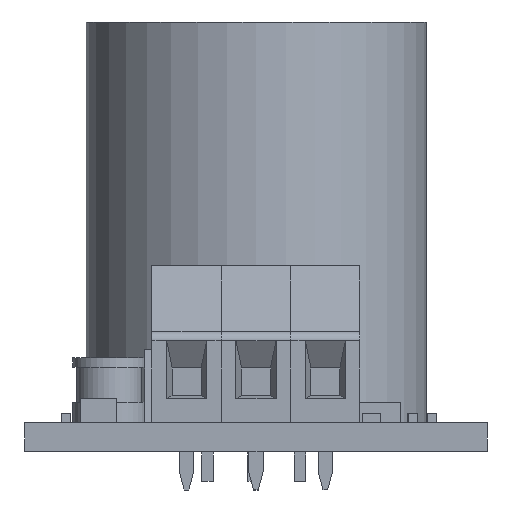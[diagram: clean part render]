
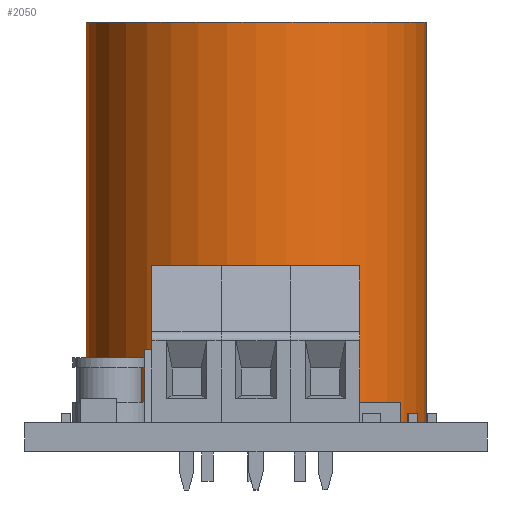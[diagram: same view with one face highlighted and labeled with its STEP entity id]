
A CAD part, left-side view. The second image highlights one B-rep face of the part: STEP entity #2050.
In plain terms, the highlighted cylindrical face has radius 9.35 mm (diameter 18.7 mm), a full revolution.
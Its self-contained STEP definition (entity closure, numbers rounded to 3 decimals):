
#2050 = ADVANCED_FACE('',(#2051),#2065,.T.);
#2051 = FACE_BOUND('',#2052,.T.);
#2052 = EDGE_LOOP('',(#2053,#2083,#2113,#2114));
#2053 = ORIENTED_EDGE('',*,*,#2054,.F.);
#2054 = EDGE_CURVE('',#2055,#2057,#2059,.T.);
#2055 = VERTEX_POINT('',#2056);
#2056 = CARTESIAN_POINT('',(9.35,0.,0.));
#2057 = VERTEX_POINT('',#2058);
#2058 = CARTESIAN_POINT('',(9.35,0.,22.));
#2059 = SEAM_CURVE('',#2060,(#2064,#2076),.PCURVE_S1.);
#2060 = LINE('',#2061,#2062);
#2061 = CARTESIAN_POINT('',(9.35,0.,0.));
#2062 = VECTOR('',#2063,1.);
#2063 = DIRECTION('',(0.,0.,1.));
#2064 = PCURVE('',#2065,#2070);
#2065 = CYLINDRICAL_SURFACE('',#2066,9.35);
#2066 = AXIS2_PLACEMENT_3D('',#2067,#2068,#2069);
#2067 = CARTESIAN_POINT('',(0.,0.,0.));
#2068 = DIRECTION('',(0.,0.,-1.));
#2069 = DIRECTION('',(1.,0.,0.));
#2070 = DEFINITIONAL_REPRESENTATION('',(#2071),#2075);
#2071 = LINE('',#2072,#2073);
#2072 = CARTESIAN_POINT('',(6.283,0.));
#2073 = VECTOR('',#2074,1.);
#2074 = DIRECTION('',(0.,-1.));
#2075 = ( GEOMETRIC_REPRESENTATION_CONTEXT(2) 
PARAMETRIC_REPRESENTATION_CONTEXT() REPRESENTATION_CONTEXT('2D SPACE',''
  ) );
#2076 = PCURVE('',#2065,#2077);
#2077 = DEFINITIONAL_REPRESENTATION('',(#2078),#2082);
#2078 = LINE('',#2079,#2080);
#2079 = CARTESIAN_POINT('',(0.,0.));
#2080 = VECTOR('',#2081,1.);
#2081 = DIRECTION('',(0.,-1.));
#2082 = ( GEOMETRIC_REPRESENTATION_CONTEXT(2) 
PARAMETRIC_REPRESENTATION_CONTEXT() REPRESENTATION_CONTEXT('2D SPACE',''
  ) );
#2083 = ORIENTED_EDGE('',*,*,#2084,.T.);
#2084 = EDGE_CURVE('',#2055,#2055,#2085,.T.);
#2085 = SURFACE_CURVE('',#2086,(#2091,#2097),.PCURVE_S1.);
#2086 = CIRCLE('',#2087,9.35);
#2087 = AXIS2_PLACEMENT_3D('',#2088,#2089,#2090);
#2088 = CARTESIAN_POINT('',(0.,0.,0.));
#2089 = DIRECTION('',(0.,0.,1.));
#2090 = DIRECTION('',(1.,0.,0.));
#2091 = PCURVE('',#2065,#2092);
#2092 = DEFINITIONAL_REPRESENTATION('',(#2093),#2096);
#2093 = B_SPLINE_CURVE_WITH_KNOTS('',1,(#2094,#2095),.UNSPECIFIED.,.F.,
  .F.,(2,2),(0.,6.283),.PIECEWISE_BEZIER_KNOTS.);
#2094 = CARTESIAN_POINT('',(6.283,0.));
#2095 = CARTESIAN_POINT('',(0.,0.));
#2096 = ( GEOMETRIC_REPRESENTATION_CONTEXT(2) 
PARAMETRIC_REPRESENTATION_CONTEXT() REPRESENTATION_CONTEXT('2D SPACE',''
  ) );
#2097 = PCURVE('',#2098,#2103);
#2098 = PLANE('',#2099);
#2099 = AXIS2_PLACEMENT_3D('',#2100,#2101,#2102);
#2100 = CARTESIAN_POINT('',(9.35,0.,0.));
#2101 = DIRECTION('',(0.,0.,-1.));
#2102 = DIRECTION('',(-1.,0.,0.));
#2103 = DEFINITIONAL_REPRESENTATION('',(#2104),#2112);
#2104 = ( BOUNDED_CURVE() B_SPLINE_CURVE(2,(#2105,#2106,#2107,#2108,
#2109,#2110,#2111),.UNSPECIFIED.,.F.,.F.) B_SPLINE_CURVE_WITH_KNOTS((1,2
    ,2,2,2,1),(-2.094,0.,2.094,4.189,
6.283,8.378),.UNSPECIFIED.) CURVE() 
GEOMETRIC_REPRESENTATION_ITEM() RATIONAL_B_SPLINE_CURVE((1.,0.5,1.,0.5,
1.,0.5,1.)) REPRESENTATION_ITEM('') );
#2105 = CARTESIAN_POINT('',(0.,0.));
#2106 = CARTESIAN_POINT('',(0.,16.195));
#2107 = CARTESIAN_POINT('',(14.025,8.097));
#2108 = CARTESIAN_POINT('',(28.05,0.));
#2109 = CARTESIAN_POINT('',(14.025,-8.097));
#2110 = CARTESIAN_POINT('',(0.,-16.195));
#2111 = CARTESIAN_POINT('',(0.,0.));
#2112 = ( GEOMETRIC_REPRESENTATION_CONTEXT(2) 
PARAMETRIC_REPRESENTATION_CONTEXT() REPRESENTATION_CONTEXT('2D SPACE',''
  ) );
#2113 = ORIENTED_EDGE('',*,*,#2054,.T.);
#2114 = ORIENTED_EDGE('',*,*,#2115,.F.);
#2115 = EDGE_CURVE('',#2057,#2057,#2116,.T.);
#2116 = SURFACE_CURVE('',#2117,(#2122,#2128),.PCURVE_S1.);
#2117 = CIRCLE('',#2118,9.35);
#2118 = AXIS2_PLACEMENT_3D('',#2119,#2120,#2121);
#2119 = CARTESIAN_POINT('',(0.,0.,22.));
#2120 = DIRECTION('',(0.,0.,1.));
#2121 = DIRECTION('',(1.,0.,0.));
#2122 = PCURVE('',#2065,#2123);
#2123 = DEFINITIONAL_REPRESENTATION('',(#2124),#2127);
#2124 = B_SPLINE_CURVE_WITH_KNOTS('',1,(#2125,#2126),.UNSPECIFIED.,.F.,
  .F.,(2,2),(0.,6.283),.PIECEWISE_BEZIER_KNOTS.);
#2125 = CARTESIAN_POINT('',(6.283,-22.));
#2126 = CARTESIAN_POINT('',(0.,-22.));
#2127 = ( GEOMETRIC_REPRESENTATION_CONTEXT(2) 
PARAMETRIC_REPRESENTATION_CONTEXT() REPRESENTATION_CONTEXT('2D SPACE',''
  ) );
#2128 = PCURVE('',#2129,#2134);
#2129 = PLANE('',#2130);
#2130 = AXIS2_PLACEMENT_3D('',#2131,#2132,#2133);
#2131 = CARTESIAN_POINT('',(9.35,0.,22.));
#2132 = DIRECTION('',(0.,0.,-1.));
#2133 = DIRECTION('',(-1.,0.,0.));
#2134 = DEFINITIONAL_REPRESENTATION('',(#2135),#2143);
#2135 = ( BOUNDED_CURVE() B_SPLINE_CURVE(2,(#2136,#2137,#2138,#2139,
#2140,#2141,#2142),.UNSPECIFIED.,.F.,.F.) B_SPLINE_CURVE_WITH_KNOTS((1,2
    ,2,2,2,1),(-2.094,0.,2.094,4.189,
6.283,8.378),.UNSPECIFIED.) CURVE() 
GEOMETRIC_REPRESENTATION_ITEM() RATIONAL_B_SPLINE_CURVE((1.,0.5,1.,0.5,
1.,0.5,1.)) REPRESENTATION_ITEM('') );
#2136 = CARTESIAN_POINT('',(0.,0.));
#2137 = CARTESIAN_POINT('',(0.,16.195));
#2138 = CARTESIAN_POINT('',(14.025,8.097));
#2139 = CARTESIAN_POINT('',(28.05,0.));
#2140 = CARTESIAN_POINT('',(14.025,-8.097));
#2141 = CARTESIAN_POINT('',(0.,-16.195));
#2142 = CARTESIAN_POINT('',(0.,0.));
#2143 = ( GEOMETRIC_REPRESENTATION_CONTEXT(2) 
PARAMETRIC_REPRESENTATION_CONTEXT() REPRESENTATION_CONTEXT('2D SPACE',''
  ) );
